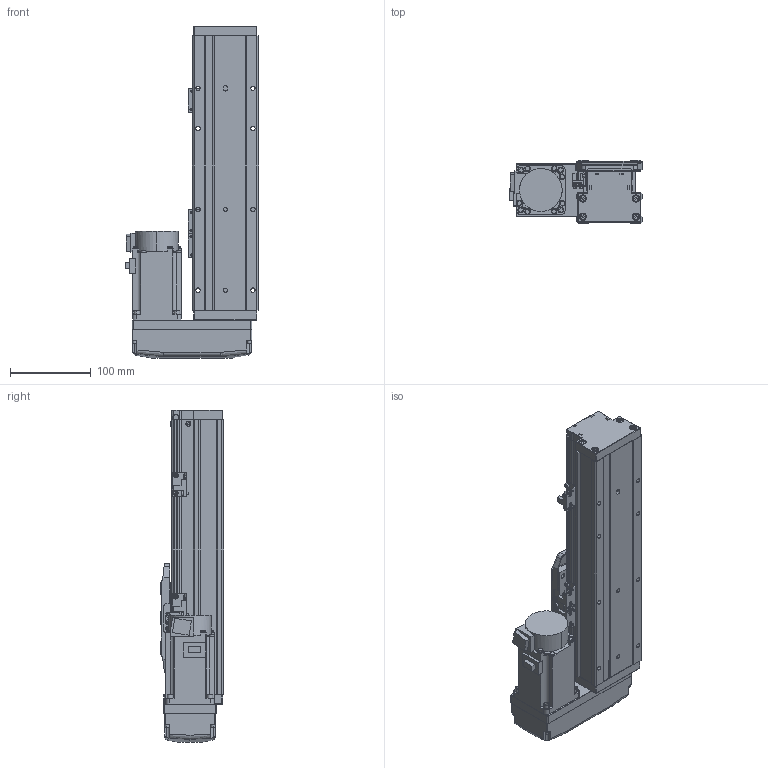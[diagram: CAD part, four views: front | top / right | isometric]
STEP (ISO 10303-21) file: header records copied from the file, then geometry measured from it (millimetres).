
FILE_DESCRIPTION (( 'STEP AP203' ), '1' );
FILE_NAME ('GTH8-150-BL-M20-C4.step', '2022-09-23T00:59:18', ( '微软用户' ), ( '微软中国' ), 'SwSTEP 2.0', 'SolidWorks 2020', '' );
FILE_SCHEMA (( 'CONFIG_CONTROL_DESIGN' ));
Length unit declared in the file: millimetre
Products named in the file (18): GTH80-004; GTH80-028; CTHA86-033_M40B; GTH80-006; GTH50-024; GTH8-150-BL-M20-C4; GTH80-013; GTH50-023; GBT 70.3-M3℅6; GBT96.1-2002 3×0.8; GTH80-022; BTH-M3X5X6; GTH80-001_150; GBT 70.1-M3℅6; hg-kn43j_-s100_; GTH80-003; GBT 70.1-M4×16; CTHA86-015-1_CTHA86-015-2
Assembly tree (57 placements, depth 2):
  GTH8-150-BL-M20-C4
    GTH80-001_150
    GTH80-003
    GTH80-004
    GTH80-006
    GTH80-013
    GBT 70.3-M3℅6  x4
    GTH80-022
    GBT 70.1-M3℅6  x14
    GBT 70.1-M4×16  x8
    GTH80-028  x2
    GTH50-024  x3
    GTH50-023  x3
    GBT96.1-2002 3×0.8  x6
    BTH-M3X5X6  x8
    hg-kn43j_-s100_
    CTHA86-015-1_CTHA86-015-2
    CTHA86-033_M40B
Bounding box: 164.8 x 78 x 411 mm (x, y, z)
Volume: 2463957.2 mm3; surface area: 312854.7 mm2
Topology: 59 solids, 59 shells, 2224 faces, 5127 edges, 3139 vertices
Faces by surface type: plane 1187, cylinder 595, cone 260, torus 166, bspline 8, sphere 8
Entity records: 40330 total; most frequent: CARTESIAN_POINT 7097, DIRECTION 6537, ORIENTED_EDGE 6072, EDGE_CURVE 3036, AXIS2_PLACEMENT_3D 2277, VECTOR 1983, LINE 1983, VERTEX_POINT 1914
